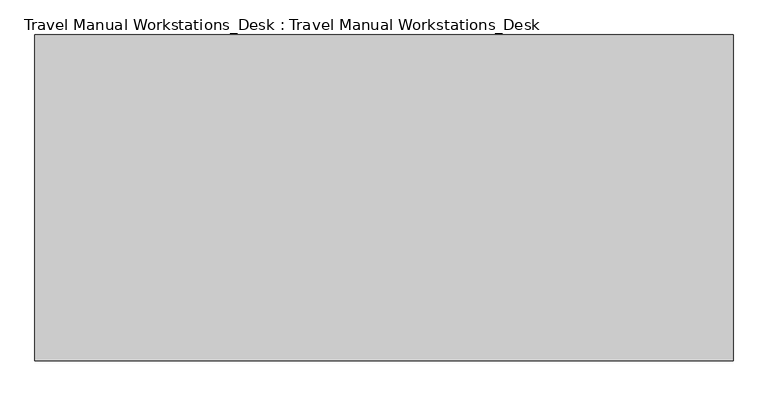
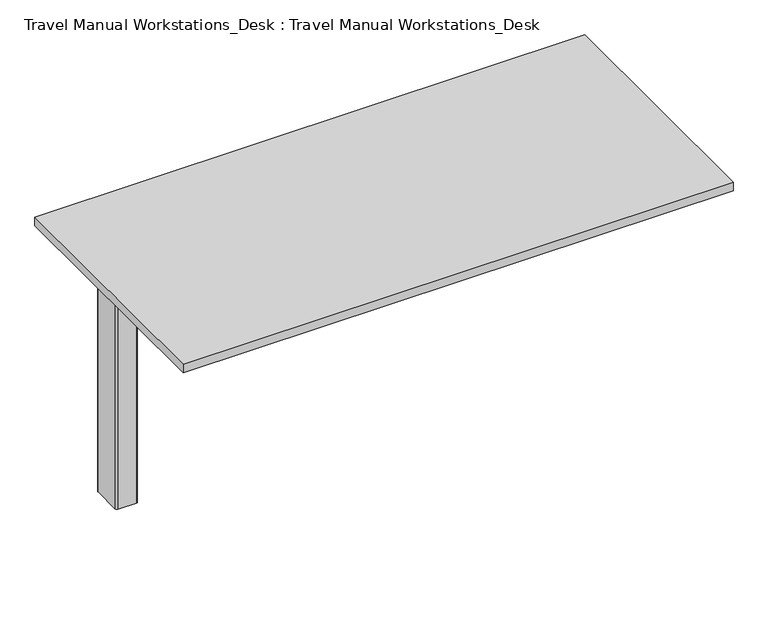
"""IFC4 building model written with IfcOpenShell, lengths in millimetres: furniture geometry, Travel Manual Workstations_Desk : Travel Manual Workstations_Desk."""

from ifc_helpers import new_model, si_unit, point, frame, frame_2d, origin, place, context, project, spatial, polyline, circle_curve, trimmed, segment, composite_curve, outline, extrude, source, transform, mapped, element, save
from ifc_brep_helpers import plane_surface, cylinder_surface, advanced_brep


def travel_manual_workstations_desk_travel_manual_workstations_5fa617ca(model_context):
    return source(origin(), model_context, "Body", "SolidModel", [
        extrude(outline(composite_curve([segment(trimmed(circle_curve(frame_2d((-688.2499086, 149.9999449)), 5.0), [point((-693.2499086, 149.9999449))], [point((-688.2499086, 154.9999449))], False, "CARTESIAN"), True, "CONTINUOUS"), segment(polyline([(-688.2499086, 154.9999449), (-638.2500826, 154.9999449)]), True, "CONTINUOUS"), segment(trimmed(circle_curve(frame_2d((-638.2500826, 149.9999449)), 5.0), [point((-638.2500826, 154.9999449))], [point((-633.2500826, 149.9999449))], False, "CARTESIAN"), True, "CONTINUOUS"), segment(polyline([(-633.2500826, 149.9999449), (-633.2500826, 69.9999733)]), True, "CONTINUOUS"), segment(trimmed(circle_curve(frame_2d((-638.2500681, 69.9999733)), 4.9999855), [point((-633.2500826, 69.9999733))], [point((-638.2500681, 64.9999878))], False, "CARTESIAN"), True, "CONTINUOUS"), segment(polyline([(-638.2500681, 64.9999878), (-688.2499086, 64.9999878)]), True, "CONTINUOUS"), segment(trimmed(circle_curve(frame_2d((-688.2499086, 69.9999878)), 5.0), [point((-688.2499086, 64.9999878))], [point((-693.2499086, 69.9999878))], False, "CARTESIAN"), True, "CONTINUOUS"), segment(polyline([(-693.2499086, 69.9999878), (-693.2499086, 149.9999449)]), True, "CONTINUOUS")], self_intersect=False), holes=[composite_curve([segment(polyline([(-635.2500826, 69.9999733), (-635.2500826, 149.9999449)]), True, "CONTINUOUS"), segment(trimmed(circle_curve(frame_2d((-638.2500826, 149.9999449)), 3.0), [point((-635.2500826, 149.9999449))], [point((-638.2500826, 152.9999449))], True, "CARTESIAN"), True, "CONTINUOUS"), segment(polyline([(-638.2500826, 152.9999449), (-688.2499086, 152.9999449)]), True, "CONTINUOUS"), segment(trimmed(circle_curve(frame_2d((-688.2499086, 149.9999449)), 3.0), [point((-688.2499086, 152.9999449))], [point((-691.2499086, 149.9999449))], True, "CARTESIAN"), True, "CONTINUOUS"), segment(polyline([(-691.2499086, 149.9999449), (-691.2499086, 69.9999878)]), True, "CONTINUOUS"), segment(trimmed(circle_curve(frame_2d((-688.2499086, 69.9999878)), 3.0), [point((-691.2499086, 69.9999878))], [point((-688.2499086, 66.9999878))], True, "CARTESIAN"), True, "CONTINUOUS"), segment(polyline([(-688.2499086, 66.9999878), (-638.2500681, 66.9999878)]), True, "CONTINUOUS"), segment(trimmed(circle_curve(frame_2d((-638.2500681, 69.9999733)), 2.9999855), [point((-638.2500681, 66.9999878))], [point((-635.2500826, 69.9999733))], True, "CARTESIAN"), True, "CONTINUOUS")], self_intersect=False)]), frame((0.0, 0.0, 28.9632507), z_axis=(0.0, 0.0, 1.0), x_axis=(1.0, 0.0, 0.0)), (0.0, 0.0, 1.0), 597.0367493),
        advanced_brep(
        [(620.5555692, 104.0070512, 662.9674643), (620.5555692, 116.0070512, 662.9674643), (620.5555692, 108.181291, 666.149964), (620.5555692, 111.8187143, 666.149964), (620.5555692, 113.6373533, 663.0000109), (620.5555692, 111.9051916, 659.999976), (620.5555692, 108.0948137, 659.999976), (620.5555692, 106.362652, 663.0000109), (-507.6493189, 104.0070512, 662.9674643), (-507.6493189, 116.0070512, 662.9674643), (-507.6493189, 111.8187143, 666.149964), (-507.6493189, 108.181291, 666.149964), (-507.6493189, 106.362652, 663.0000109), (-507.6493189, 108.0948137, 659.999976), (-507.6493189, 111.9051916, 659.999976), (-507.6493189, 113.6373533, 663.0000109), (686.7493485, 111.8187143, 666.149964), (686.7493485, 108.181291, 666.149964), (686.7493485, 106.362652, 663.0000109), (686.7493485, 108.0948137, 659.999976), (686.7493485, 111.9051916, 659.999976), (686.7493485, 113.6373533, 663.0000109), (-686.2506629, 111.8187143, 666.149964), (-686.2506629, 113.6373533, 663.0000109), (-686.2506629, 111.9051916, 659.999976), (-686.2506629, 108.0948137, 659.999976), (-686.2506629, 106.362652, 663.0000109), (-686.2506629, 108.181291, 666.149964)],
        [
            (0, 1, circle_curve(frame((620.5555692, 110.0070512, 662.9674643), z_axis=(1.0, 0.0, 0.0), x_axis=(0.0, 1.0, 0.0)), 6.0)),
            (1, 0, circle_curve(frame((620.5555692, 110.0070512, 662.9674643), z_axis=(1.0, 0.0, 0.0), x_axis=(0.0, 1.0, 0.0)), 6.0)),
            (2, 3),
            (3, 4),
            (4, 5),
            (5, 6),
            (6, 7),
            (7, 2),
            (8, 9, circle_curve(frame((-507.6493189, 110.0070512, 662.9674643), z_axis=(-1.0, 0.0, 0.0), x_axis=(0.0, 1.0, 0.0)), 6.0)),
            (9, 8, circle_curve(frame((-507.6493189, 110.0070512, 662.9674643), z_axis=(-1.0, 0.0, 0.0), x_axis=(0.0, 1.0, 0.0)), 6.0)),
            (10, 11),
            (11, 12),
            (12, 13),
            (13, 14),
            (14, 15),
            (15, 10),
            (1, 9),
            (8, 0),
            (16, 17),
            (17, 18),
            (18, 19),
            (19, 20),
            (20, 21),
            (21, 16),
            (22, 23),
            (23, 24),
            (24, 25),
            (25, 26),
            (26, 27),
            (27, 22),
            (16, 3),
            (2, 17),
            (27, 11),
            (10, 22),
            (7, 18),
            (26, 12),
            (6, 19),
            (25, 13),
            (5, 20),
            (24, 14),
            (4, 21),
            (23, 15),
        ],
        [
            plane_surface(frame((620.5555692, 116.0070512, 662.9674643), z_axis=(1.0, 0.0, 0.0), x_axis=(0.0, 0.0, 1.0))),
            plane_surface(frame((-507.6493189, 116.0070512, 662.9674643), z_axis=(-1.0, 0.0, 0.0), x_axis=(0.0, 0.0, -1.0))),
            cylinder_surface(frame((-507.6493189, 110.0070512, 662.9674643), z_axis=(1.0, 0.0, 0.0), x_axis=(0.0, 1.0, 0.0)), 6.0),
            plane_surface(frame((686.7493485, 111.8187143, 666.149964), z_axis=(1.0, 0.0, 0.0), x_axis=(0.0, -1.0, 0.0))),
            plane_surface(frame((-686.2506629, 111.8187143, 666.149964), z_axis=(-1.0, 0.0, 0.0), x_axis=(0.0, 1.0, 0.0))),
            plane_surface(frame((686.7493485, 111.8187143, 666.149964), z_axis=(0.0, 0.0, 1.0), x_axis=(-1.0, 0.0, 0.0))),
            plane_surface(frame((686.7493485, 108.181291, 666.149964), z_axis=(0.0, -0.8660238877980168, 0.5000026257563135), x_axis=(-1.0, 0.0, 0.0))),
            plane_surface(frame((686.7493485, 106.362652, 663.0000109), z_axis=(0.0, -0.8660140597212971, -0.5000196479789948), x_axis=(-1.0, 0.0, 0.0))),
            plane_surface(frame((686.7493485, 108.0948137, 659.999976), z_axis=(0.0, 0.0, -1.0), x_axis=(-1.0, 0.0, 0.0))),
            plane_surface(frame((686.7493485, 111.9051916, 659.999976), z_axis=(0.0, 0.866014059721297, -0.500019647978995), x_axis=(-1.0, 0.0, 0.0))),
            plane_surface(frame((686.7493485, 113.6373533, 663.0000109), z_axis=(0.0, 0.8660238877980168, 0.5000026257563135), x_axis=(-1.0, 0.0, 0.0))),
        ],
        [
            (0, [[1, 2], [3, 4, 5, 6, 7, 8]]),
            (1, [[9, 10], [11, 12, 13, 14, 15, 16]]),
            (2, [[-2, 17, -9, 18]]),
            (2, [[-1, -18, -10, -17]]),
            (3, [[19, 20, 21, 22, 23, 24]]),
            (4, [[25, 26, 27, 28, 29, 30]]),
            (5, [[-19, 31, -3, 32]]),
            (5, [[-30, 33, -11, 34]]),
            (6, [[-20, -32, -8, 35]]),
            (6, [[-29, 36, -12, -33]]),
            (7, [[-21, -35, -7, 37]]),
            (7, [[-28, 38, -13, -36]]),
            (8, [[-22, -37, -6, 39]]),
            (8, [[-27, 40, -14, -38]]),
            (9, [[-23, -39, -5, 41]]),
            (9, [[-26, 42, -15, -40]]),
            (10, [[-24, -41, -4, -31]]),
            (10, [[-25, -34, -16, -42]]),
        ],
    ),
        extrude(outline(polyline([(-750.0000057, 350.0000027), (750.0000057, 350.0000027), (750.0000057, -350.0000027), (-750.0000057, -350.0000027), (-750.0000057, 350.0000027)])), frame((0.0, 0.0, 695.00002), z_axis=(0.0, 0.0, 1.0), x_axis=(1.0, 0.0, 0.0)), (0.0, 0.0, 1.0), 25.0),
    ])


if __name__ == "__main__":
    model = new_model("IFC4")
    model_context = context("Model", 3, world=origin())
    ifc_project = project(units=[si_unit("LENGTHUNIT", "METRE", prefix="MILLI")], contexts=[model_context])
    site = spatial("IfcSite", under=ifc_project)
    building = spatial("IfcBuilding", under=site)
    placement = place(None, origin())
    travel_manual_workstations_desk_travel_manual_workstations_shape = travel_manual_workstations_desk_travel_manual_workstations_5fa617ca(model_context)
    element("IfcFurniture", 1, ObjectType="Travel Manual Workstations_Desk : Travel Manual Workstations_Desk", at=placement, inside=building, context=model_context, shape_type="MappedRepresentation", body=[
        mapped(travel_manual_workstations_desk_travel_manual_workstations_shape, transform((0.0, 0.0, 0.0), x_axis=(1.0, 0.0, 0.0), y_axis=(0.0, 1.0, 0.0), z_axis=(0.0, 0.0, 1.0))),
    ])
    save(model, "model.ifc")
